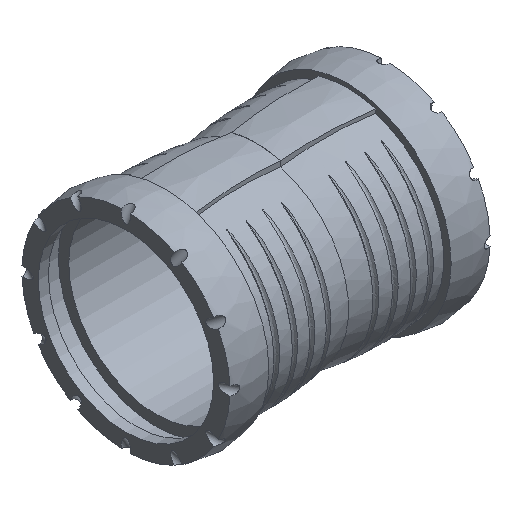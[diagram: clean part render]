
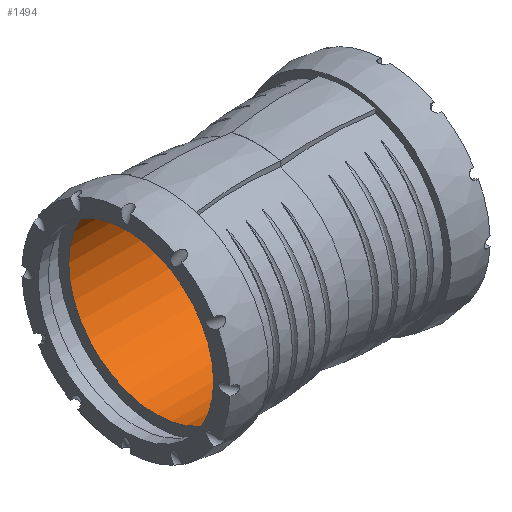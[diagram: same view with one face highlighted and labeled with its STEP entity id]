
A CAD part, isometric view. The second image highlights one B-rep face of the part: STEP entity #1494.
In plain terms, the highlighted cylindrical face has radius 37.95 mm (diameter 75.9 mm), a full revolution.
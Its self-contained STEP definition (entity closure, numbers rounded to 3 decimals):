
#68=CYLINDRICAL_SURFACE('',#1623,37.95);
#182=FACE_OUTER_BOUND('',#471,.T.);
#354=FACE_BOUND('',#472,.T.);
#471=EDGE_LOOP('',(#1309));
#472=EDGE_LOOP('',(#1310));
#503=CIRCLE('',#1563,37.95);
#532=CIRCLE('',#1622,37.95);
#610=VERTEX_POINT('',#4593);
#686=VERTEX_POINT('',#7306);
#791=EDGE_CURVE('',#610,#610,#503,.T.);
#894=EDGE_CURVE('',#686,#686,#532,.T.);
#1309=ORIENTED_EDGE('',*,*,#791,.F.);
#1310=ORIENTED_EDGE('',*,*,#894,.T.);
#1494=ADVANCED_FACE('',(#182,#354),#68,.F.);
#1563=AXIS2_PLACEMENT_3D('',#4594,#1752,#1753);
#1622=AXIS2_PLACEMENT_3D('',#7307,#1870,#1871);
#1623=AXIS2_PLACEMENT_3D('',#7308,#1872,#1873);
#1752=DIRECTION('center_axis',(-1.,0.,0.));
#1753=DIRECTION('ref_axis',(0.,0.,
1.));
#1870=DIRECTION('center_axis',(-1.,0.,0.));
#1871=DIRECTION('ref_axis',(0.,0.,
-1.));
#1872=DIRECTION('center_axis',(-1.,0.,0.));
#1873=DIRECTION('ref_axis',(0.,-1.,0.));
#4593=CARTESIAN_POINT('',(0.,0.,
-37.95));
#4594=CARTESIAN_POINT('Origin',(0.,0.,
0.));
#7306=CARTESIAN_POINT('',(-43.4,-37.95,0.));
#7307=CARTESIAN_POINT('Origin',(-43.4,0.,
0.));
#7308=CARTESIAN_POINT('Origin',(-23.45,0.,
0.));
